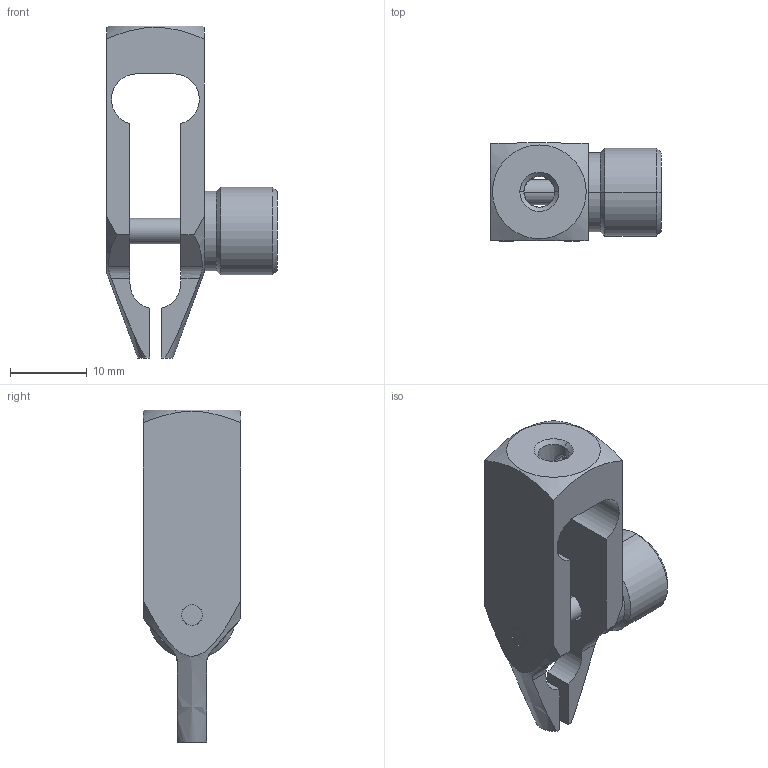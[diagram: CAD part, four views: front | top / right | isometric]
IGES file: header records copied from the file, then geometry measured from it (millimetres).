
Global section: file name: No Iges File Name specified; native system: Autodesk Inventor 2010; preprocessor: AutoDesk Inventor Iges Exporter R2010; author: mlampen; date: 20170420.130418; units: inch
Bounding box: 22.23 x 12.7 x 43.18 mm (x, y, z)
Volume: 3667 mm3; surface area: 3126.9 mm2
Topology: 2 solids, 2 shells, 99 faces, 241 edges, 148 vertices
Faces by surface type: plane 38, revolution 33, cone 17, cylinder 11
